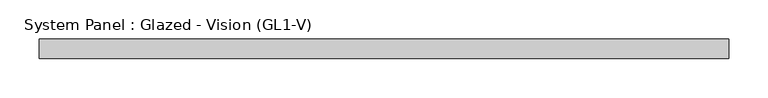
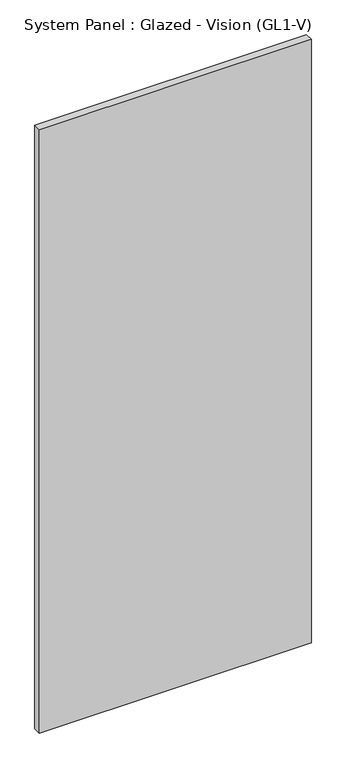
"""IFC4 building model written with IfcOpenShell, lengths in millimetres: plate geometry, System Panel : Glazed - Vision (GL1-V)."""

from ifc_helpers import new_model, si_unit, origin, origin_with_axes, place, context, project, spatial, polyline, outline, extrude, source, transform, mapped, element, save


def system_panel_glazed_vision_gl1_v_e9eae911(model_context):
    return source(origin(), model_context, "Body", "SweptSolid", [
        extrude(outline(polyline([(441.325, -25.4), (-441.325, -25.4), (-441.325, 0.0), (441.325, 0.0), (441.325, -25.4)])), origin_with_axes(), (0.0, 0.0, 1.0), 2070.1),
    ])


if __name__ == "__main__":
    model = new_model("IFC4")
    model_context = context("Model", 3, world=origin())
    ifc_project = project(units=[si_unit("LENGTHUNIT", "METRE", prefix="MILLI")], contexts=[model_context])
    site = spatial("IfcSite", under=ifc_project)
    building = spatial("IfcBuilding", under=site)
    placement = place(None, origin())
    system_panel_glazed_vision_gl1_v_shape = system_panel_glazed_vision_gl1_v_e9eae911(model_context)
    element("IfcPlate", 1, ObjectType="System Panel : Glazed - Vision (GL1-V)", at=placement, inside=building, context=model_context, shape_type="MappedRepresentation", body=[
        mapped(system_panel_glazed_vision_gl1_v_shape, transform((0.0, 0.0, 0.0), x_axis=(1.0, 0.0, 0.0), y_axis=(0.0, 1.0, 0.0), z_axis=(0.0, 0.0, 1.0))),
    ])
    save(model, "model.ifc")
